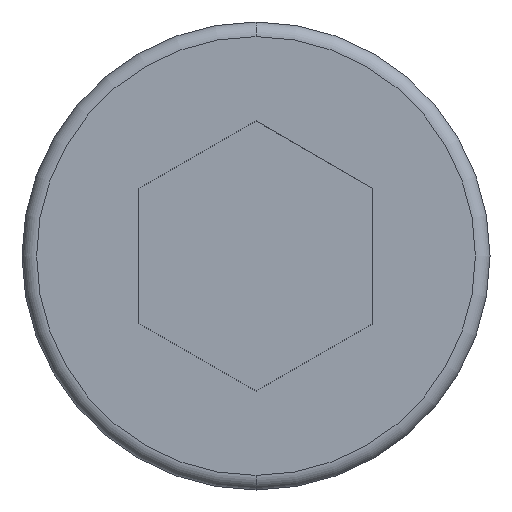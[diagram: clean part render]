
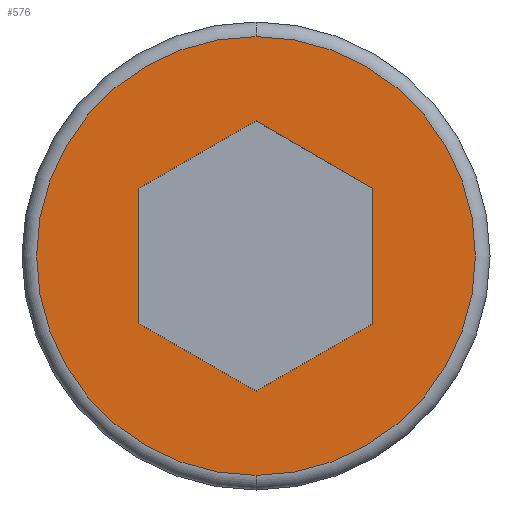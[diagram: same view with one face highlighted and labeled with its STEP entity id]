
A CAD part, front view. The second image highlights one B-rep face of the part: STEP entity #576.
In plain terms, the highlighted planar face has unit normal (0, -1, 0).
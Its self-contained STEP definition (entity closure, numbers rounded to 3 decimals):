
#4 = EDGE_CURVE ( 'NONE', #33, #80, #341, .T. ) ;
#9 = ORIENTED_EDGE ( 'NONE', *, *, #557, .F. ) ;
#22 = FACE_BOUND ( 'NONE', #460, .T. ) ;
#29 = CARTESIAN_POINT ( 'NONE',  ( 0., -10., 7.5 ) ) ;
#33 = VERTEX_POINT ( 'NONE', #29 ) ;
#42 = ORIENTED_EDGE ( 'NONE', *, *, #4, .T. ) ;
#49 = CARTESIAN_POINT ( 'NONE',  ( 0., -10., 0. ) ) ;
#59 = DIRECTION ( 'NONE',  ( 0., 0., -1. ) ) ;
#65 = VECTOR ( 'NONE', #719, 1000. ) ;
#74 = DIRECTION ( 'NONE',  ( 0., 0., -1. ) ) ;
#78 = ORIENTED_EDGE ( 'NONE', *, *, #415, .F. ) ;
#80 = VERTEX_POINT ( 'NONE', #349 ) ;
#118 = LINE ( 'NONE', #425, #312 ) ;
#121 = VERTEX_POINT ( 'NONE', #526 ) ;
#147 = AXIS2_PLACEMENT_3D ( 'NONE', #49, #359, #422 ) ;
#152 = CARTESIAN_POINT ( 'NONE',  ( -4., -10., -2.309 ) ) ;
#161 = ORIENTED_EDGE ( 'NONE', *, *, #492, .F. ) ;
#164 = ORIENTED_EDGE ( 'NONE', *, *, #701, .T. ) ;
#165 = VECTOR ( 'NONE', #406, 1000. ) ;
#174 = CARTESIAN_POINT ( 'NONE',  ( 4., -10., -2.309 ) ) ;
#179 = ORIENTED_EDGE ( 'NONE', *, *, #202, .F. ) ;
#185 = LINE ( 'NONE', #152, #275 ) ;
#196 = EDGE_LOOP ( 'NONE', ( #164, #42 ) ) ;
#202 = EDGE_CURVE ( 'NONE', #372, #585, #185, .T. ) ;
#206 = DIRECTION ( 'NONE',  ( 0., -1., 0. ) ) ;
#210 = AXIS2_PLACEMENT_3D ( 'NONE', #442, #206, #74 ) ;
#213 = PLANE ( 'NONE',  #147 ) ;
#231 = CARTESIAN_POINT ( 'NONE',  ( 0., -10., -4.619 ) ) ;
#247 = DIRECTION ( 'NONE',  ( 0., 0., 1. ) ) ;
#253 = LINE ( 'NONE', #674, #437 ) ;
#275 = VECTOR ( 'NONE', #452, 1000. ) ;
#312 = VECTOR ( 'NONE', #247, 1000. ) ;
#319 = EDGE_CURVE ( 'NONE', #585, #323, #322, .T. ) ;
#322 = LINE ( 'NONE', #231, #165 ) ;
#323 = VERTEX_POINT ( 'NONE', #174 ) ;
#324 = VERTEX_POINT ( 'NONE', #346 ) ;
#333 = ORIENTED_EDGE ( 'NONE', *, *, #319, .F. ) ;
#341 = CIRCLE ( 'NONE', #403, 7.5 ) ;
#346 = CARTESIAN_POINT ( 'NONE',  ( -4., -10., 2.309 ) ) ;
#347 = EDGE_CURVE ( 'NONE', #540, #324, #499, .T. ) ;
#349 = CARTESIAN_POINT ( 'NONE',  ( 0., -10., -7.5 ) ) ;
#359 = DIRECTION ( 'NONE',  ( 0., -1., 0. ) ) ;
#372 = VERTEX_POINT ( 'NONE', #470 ) ;
#403 = AXIS2_PLACEMENT_3D ( 'NONE', #629, #567, #631 ) ;
#406 = DIRECTION ( 'NONE',  ( 0.866, 0., 0.5 ) ) ;
#415 = EDGE_CURVE ( 'NONE', #324, #372, #253, .T. ) ;
#421 = ORIENTED_EDGE ( 'NONE', *, *, #347, .F. ) ;
#422 = DIRECTION ( 'NONE',  ( 0., 0., -1. ) ) ;
#425 = CARTESIAN_POINT ( 'NONE',  ( 4., -10., -2.309 ) ) ;
#430 = CARTESIAN_POINT ( 'NONE',  ( 0., -10., -4.619 ) ) ;
#437 = VECTOR ( 'NONE', #59, 1000. ) ;
#442 = CARTESIAN_POINT ( 'NONE',  ( 0., -10., 0. ) ) ;
#452 = DIRECTION ( 'NONE',  ( 0.866, 0., -0.5 ) ) ;
#460 = EDGE_LOOP ( 'NONE', ( #161, #333, #179, #78, #421, #9 ) ) ;
#470 = CARTESIAN_POINT ( 'NONE',  ( -4., -10., -2.309 ) ) ;
#491 = FACE_OUTER_BOUND ( 'NONE', #196, .T. ) ;
#492 = EDGE_CURVE ( 'NONE', #323, #121, #118, .T. ) ;
#499 = LINE ( 'NONE', #579, #678 ) ;
#526 = CARTESIAN_POINT ( 'NONE',  ( 4., -10., 2.309 ) ) ;
#540 = VERTEX_POINT ( 'NONE', #651 ) ;
#554 = LINE ( 'NONE', #656, #65 ) ;
#557 = EDGE_CURVE ( 'NONE', #121, #540, #554, .T. ) ;
#567 = DIRECTION ( 'NONE',  ( 0., -1., 0. ) ) ;
#576 = ADVANCED_FACE ( 'NONE', ( #491, #22 ), #213, .T. ) ;
#579 = CARTESIAN_POINT ( 'NONE',  ( 0., -10., 4.619 ) ) ;
#585 = VERTEX_POINT ( 'NONE', #430 ) ;
#590 = CIRCLE ( 'NONE', #210, 7.5 ) ;
#597 = DIRECTION ( 'NONE',  ( -0.866, 0., -0.5 ) ) ;
#629 = CARTESIAN_POINT ( 'NONE',  ( 0., -10., 0. ) ) ;
#631 = DIRECTION ( 'NONE',  ( 0., 0., -1. ) ) ;
#651 = CARTESIAN_POINT ( 'NONE',  ( 0., -10., 4.619 ) ) ;
#656 = CARTESIAN_POINT ( 'NONE',  ( 4., -10., 2.309 ) ) ;
#674 = CARTESIAN_POINT ( 'NONE',  ( -4., -10., 2.309 ) ) ;
#678 = VECTOR ( 'NONE', #597, 1000. ) ;
#701 = EDGE_CURVE ( 'NONE', #80, #33, #590, .T. ) ;
#719 = DIRECTION ( 'NONE',  ( -0.866, 0., 0.5 ) ) ;
